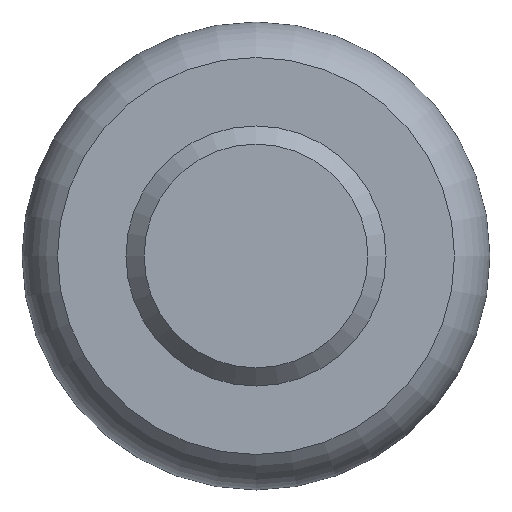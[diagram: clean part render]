
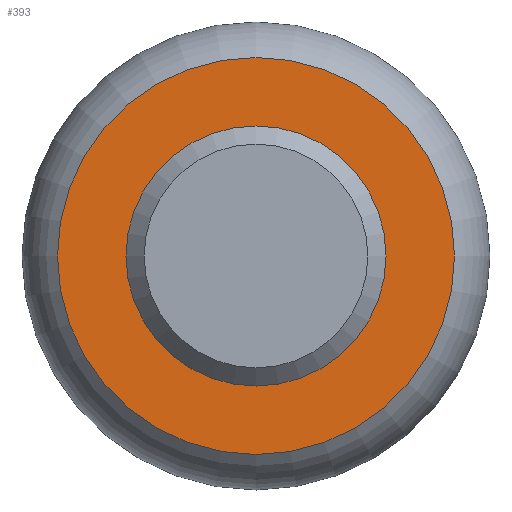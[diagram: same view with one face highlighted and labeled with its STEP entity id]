
A CAD part, front view. The second image highlights one B-rep face of the part: STEP entity #393.
In plain terms, the highlighted planar face has unit normal (0, -1, 0).
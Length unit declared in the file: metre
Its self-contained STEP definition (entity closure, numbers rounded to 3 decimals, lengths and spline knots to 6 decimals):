
#19=PLANE('',#574);
#36=CIRCLE('',#575,0.001908);
#37=CIRCLE('',#576,0.00125);
#74=ORIENTED_EDGE('',*,*,#177,.F.);
#75=ORIENTED_EDGE('',*,*,#178,.F.);
#177=EDGE_CURVE('',#228,#228,#36,.T.);
#178=EDGE_CURVE('',#229,#229,#37,.T.);
#228=VERTEX_POINT('',#792);
#229=VERTEX_POINT('',#794);
#306=EDGE_LOOP('',(#74));
#307=EDGE_LOOP('',(#75));
#334=FACE_BOUND('',#306,.T.);
#335=FACE_BOUND('',#307,.T.);
#393=ADVANCED_FACE('',(#334,#335),#19,.T.);
#574=AXIS2_PLACEMENT_3D('',#790,#645,#646);
#575=AXIS2_PLACEMENT_3D('',#791,#647,#648);
#576=AXIS2_PLACEMENT_3D('',#793,#649,#650);
#645=DIRECTION('',(0.,-1.,0.));
#646=DIRECTION('',(0.,0.,-1.));
#647=DIRECTION('',(0.,1.,0.));
#648=DIRECTION('',(1.,0.,0.));
#649=DIRECTION('',(0.,-1.,0.));
#650=DIRECTION('',(1.,0.,0.));
#790=CARTESIAN_POINT('',(0.,0.,0.));
#791=CARTESIAN_POINT('',(0.,0.,0.));
#792=CARTESIAN_POINT('',(0.001908,0.,0.));
#793=CARTESIAN_POINT('',(0.,0.,0.));
#794=CARTESIAN_POINT('',(0.00125,0.,0.));
